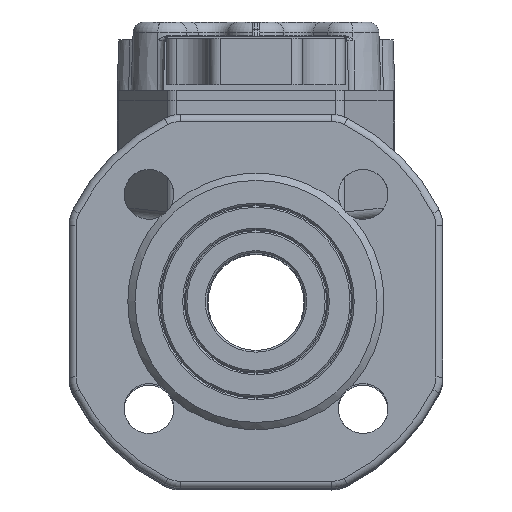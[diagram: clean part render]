
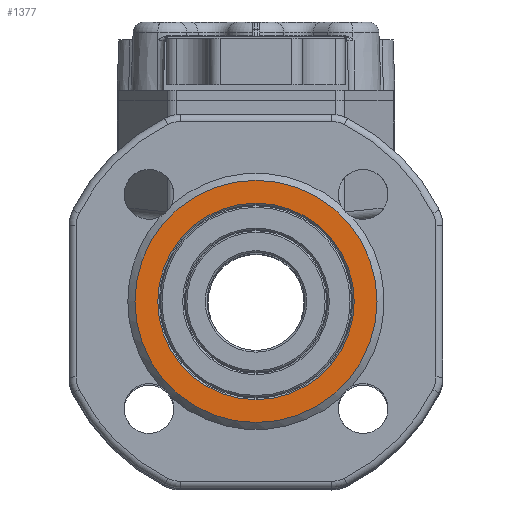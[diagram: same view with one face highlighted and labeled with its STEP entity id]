
A CAD part, top view. The second image highlights one B-rep face of the part: STEP entity #1377.
In plain terms, the highlighted planar face has unit normal (0, 0, 1).
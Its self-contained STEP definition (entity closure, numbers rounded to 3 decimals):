
#1377 = ADVANCED_FACE( '', ( #2812, #2813 ), #2814, .T. );
#2812 = FACE_BOUND( '', #8405, .T. );
#2813 = FACE_OUTER_BOUND( '', #8406, .T. );
#2814 = PLANE( '', #8407 );
#8405 = EDGE_LOOP( '', ( #11815 ) );
#8406 = EDGE_LOOP( '', ( #11816 ) );
#8407 = AXIS2_PLACEMENT_3D( '', #11817, #11818, #11819 );
#11815 = ORIENTED_EDGE( '', *, *, #12728, .F. );
#11816 = ORIENTED_EDGE( '', *, *, #12013, .F. );
#11817 = CARTESIAN_POINT( '', ( 0., -34., 260. ) );
#11818 = DIRECTION( '', ( 0., 0., 1. ) );
#11819 = DIRECTION( '', ( 1., 0., 0. ) );
#12013 = EDGE_CURVE( '', #13464, #13464, #13465, .T. );
#12728 = EDGE_CURVE( '', #14564, #14564, #14565, .T. );
#13464 = VERTEX_POINT( '', #15584 );
#13465 = CIRCLE( '', #15585, 34. );
#14564 = VERTEX_POINT( '', #18064 );
#14565 = CIRCLE( '', #18065, 27.583 );
#15584 = CARTESIAN_POINT( '', ( -34., 0., 260. ) );
#15585 = AXIS2_PLACEMENT_3D( '', #19421, #19422, #19423 );
#18064 = CARTESIAN_POINT( '', ( 0., -27.583, 260. ) );
#18065 = AXIS2_PLACEMENT_3D( '', #20509, #20510, #20511 );
#19421 = CARTESIAN_POINT( '', ( 0., 0., 260. ) );
#19422 = DIRECTION( '', ( 0., 0., -1. ) );
#19423 = DIRECTION( '', ( -1., 0., 0. ) );
#20509 = CARTESIAN_POINT( '', ( 0., 0., 260. ) );
#20510 = DIRECTION( '', ( 0., 0., 1. ) );
#20511 = DIRECTION( '', ( 0., -1., 0. ) );
